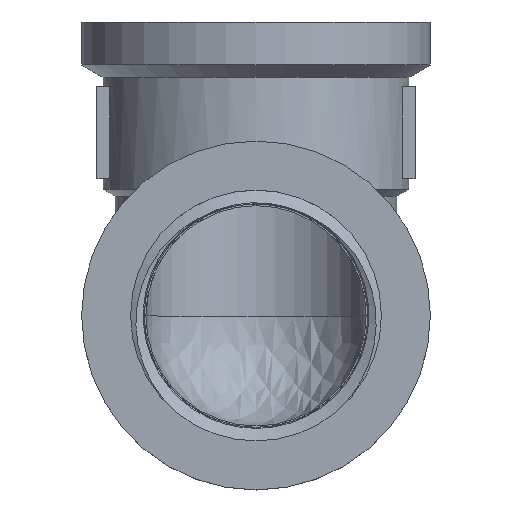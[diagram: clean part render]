
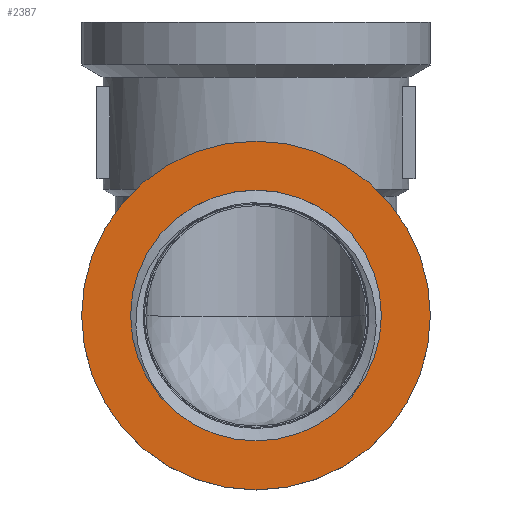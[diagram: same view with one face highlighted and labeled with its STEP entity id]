
A CAD part, top view. The second image highlights one B-rep face of the part: STEP entity #2387.
In plain terms, the highlighted planar face has unit normal (0, 0, 1).
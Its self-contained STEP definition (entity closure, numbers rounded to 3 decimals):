
#73=FACE_BOUND('',#506,.T.);
#81=CIRCLE('',#2499,10.25);
#82=CIRCLE('',#2500,10.25);
#102=CIRCLE('',#2532,14.25);
#103=CIRCLE('',#2533,14.25);
#359=FACE_OUTER_BOUND('',#505,.T.);
#505=EDGE_LOOP('',(#2032,#2033));
#506=EDGE_LOOP('',(#2034,#2035));
#1049=VERTEX_POINT('',#3703);
#1050=VERTEX_POINT('',#3704);
#1075=VERTEX_POINT('',#3800);
#1076=VERTEX_POINT('',#3801);
#1343=EDGE_CURVE('',#1049,#1050,#81,.T.);
#1344=EDGE_CURVE('',#1050,#1049,#82,.T.);
#1378=EDGE_CURVE('',#1075,#1076,#102,.T.);
#1379=EDGE_CURVE('',#1076,#1075,#103,.T.);
#2032=ORIENTED_EDGE('',*,*,#1378,.T.);
#2033=ORIENTED_EDGE('',*,*,#1379,.T.);
#2034=ORIENTED_EDGE('',*,*,#1343,.T.);
#2035=ORIENTED_EDGE('',*,*,#1344,.T.);
#2285=PLANE('',#2574);
#2387=ADVANCED_FACE('',(#359,#73),#2285,.F.);
#2499=AXIS2_PLACEMENT_3D('',#3705,#2861,#2862);
#2500=AXIS2_PLACEMENT_3D('',#3706,#2863,#2864);
#2532=AXIS2_PLACEMENT_3D('',#3802,#2933,#2934);
#2533=AXIS2_PLACEMENT_3D('',#3803,#2935,#2936);
#2574=AXIS2_PLACEMENT_3D('',#3948,#3043,#3044);
#2861=DIRECTION('center_axis',(0.,0.,-1.));
#2862=DIRECTION('ref_axis',(0.,-1.,0.));
#2863=DIRECTION('center_axis',(0.,0.,-1.));
#2864=DIRECTION('ref_axis',(0.,-1.,0.));
#2933=DIRECTION('center_axis',(0.,0.,1.));
#2934=DIRECTION('ref_axis',(1.,0.,0.));
#2935=DIRECTION('center_axis',(0.,0.,1.));
#2936=DIRECTION('ref_axis',(1.,0.,0.));
#3043=DIRECTION('center_axis',(0.,0.,-1.));
#3044=DIRECTION('ref_axis',(0.,1.,0.));
#3703=CARTESIAN_POINT('',(0.,-34.25,24.));
#3704=CARTESIAN_POINT('',(0.,-13.75,24.));
#3705=CARTESIAN_POINT('Origin',(0.,-24.,24.));
#3706=CARTESIAN_POINT('Origin',(0.,-24.,24.));
#3800=CARTESIAN_POINT('',(0.,-38.25,24.));
#3801=CARTESIAN_POINT('',(0.,-9.75,24.));
#3802=CARTESIAN_POINT('Origin',(0.,-24.,24.));
#3803=CARTESIAN_POINT('Origin',(0.,-24.,24.));
#3948=CARTESIAN_POINT('Origin',(0.,-24.,24.));
